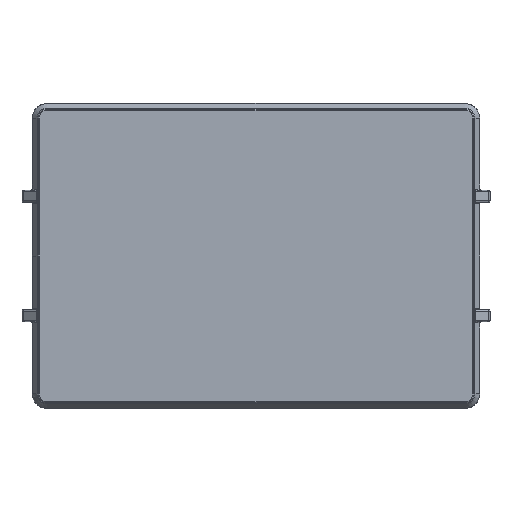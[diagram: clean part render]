
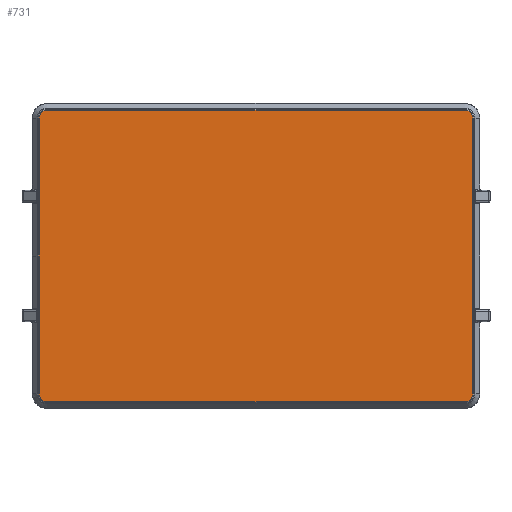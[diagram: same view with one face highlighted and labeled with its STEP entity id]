
A CAD part, front view. The second image highlights one B-rep face of the part: STEP entity #731.
In plain terms, the highlighted planar face has unit normal (0, -1, 0).
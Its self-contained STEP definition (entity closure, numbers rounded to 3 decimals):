
#205 = VECTOR ( 'NONE', #1746, 1000. ) ;
#487 = PLANE ( 'NONE',  #545 ) ;
#545 = AXIS2_PLACEMENT_3D ( 'NONE', #10472, #15625, #4032 ) ;
#584 = VERTEX_POINT ( 'NONE', #10061 ) ;
#697 = EDGE_CURVE ( 'NONE', #2830, #5253, #2931, .T. ) ;
#731 = ADVANCED_FACE ( 'NONE', ( #6919 ), #487, .F. ) ;
#985 = LINE ( 'NONE', #11041, #5100 ) ;
#1746 = DIRECTION ( 'NONE',  ( 0., 0., -1. ) ) ;
#1948 = DIRECTION ( 'NONE',  ( 0., 0., 1. ) ) ;
#2735 = LINE ( 'NONE', #10519, #13420 ) ;
#2830 = VERTEX_POINT ( 'NONE', #15658 ) ;
#2931 = LINE ( 'NONE', #12075, #2961 ) ;
#2961 = VECTOR ( 'NONE', #10714, 1000. ) ;
#3490 = ORIENTED_EDGE ( 'NONE', *, *, #8204, .T. ) ;
#3570 = ORIENTED_EDGE ( 'NONE', *, *, #8040, .T. ) ;
#3737 = VERTEX_POINT ( 'NONE', #7482 ) ;
#4032 = DIRECTION ( 'NONE',  ( 0., 0., 1. ) ) ;
#4061 = DIRECTION ( 'NONE',  ( -1., 0., 0. ) ) ;
#4274 = LINE ( 'NONE', #9460, #205 ) ;
#4584 = DIRECTION ( 'NONE',  ( 1., 0., 0. ) ) ;
#4624 = AXIS2_PLACEMENT_3D ( 'NONE', #15151, #12380, #4584 ) ;
#4814 = EDGE_CURVE ( 'NONE', #14382, #3737, #985, .T. ) ;
#5012 = AXIS2_PLACEMENT_3D ( 'NONE', #14056, #5879, #11598 ) ;
#5100 = VECTOR ( 'NONE', #12656, 1000. ) ;
#5253 = VERTEX_POINT ( 'NONE', #11448 ) ;
#5351 = LINE ( 'NONE', #12022, #8444 ) ;
#5879 = DIRECTION ( 'NONE',  ( 0., -1., 0. ) ) ;
#6364 = CIRCLE ( 'NONE', #5012, 3.334 ) ;
#6465 = DIRECTION ( 'NONE',  ( 0., 0., 1. ) ) ;
#6535 = DIRECTION ( 'NONE',  ( 0., 0., -1. ) ) ;
#6748 = CIRCLE ( 'NONE', #11884, 3.334 ) ;
#6919 = FACE_OUTER_BOUND ( 'NONE', #7227, .T. ) ;
#7227 = EDGE_LOOP ( 'NONE', ( #13745, #15161, #10033, #3490, #14916, #11467, #9841, #15255, #3570 ) ) ;
#7280 = EDGE_CURVE ( 'NONE', #16364, #9458, #6748, .T. ) ;
#7482 = CARTESIAN_POINT ( 'NONE',  ( 88., -9., -61.334 ) ) ;
#7509 = CARTESIAN_POINT ( 'NONE',  ( -88., -9., -61.334 ) ) ;
#8038 = AXIS2_PLACEMENT_3D ( 'NONE', #9422, #12887, #6535 ) ;
#8040 = EDGE_CURVE ( 'NONE', #9458, #2830, #4274, .T. ) ;
#8204 = EDGE_CURVE ( 'NONE', #3737, #584, #11516, .T. ) ;
#8444 = VECTOR ( 'NONE', #4061, 1000. ) ;
#9240 = CIRCLE ( 'NONE', #4624, 3.334 ) ;
#9422 = CARTESIAN_POINT ( 'NONE',  ( 88., -9., -58. ) ) ;
#9458 = VERTEX_POINT ( 'NONE', #10027 ) ;
#9460 = CARTESIAN_POINT ( 'NONE',  ( -91.334, -9., 58. ) ) ;
#9841 = ORIENTED_EDGE ( 'NONE', *, *, #11072, .T. ) ;
#10027 = CARTESIAN_POINT ( 'NONE',  ( -91.334, -9., 58. ) ) ;
#10033 = ORIENTED_EDGE ( 'NONE', *, *, #4814, .T. ) ;
#10061 = CARTESIAN_POINT ( 'NONE',  ( 91.334, -9., -58. ) ) ;
#10472 = CARTESIAN_POINT ( 'NONE',  ( -91.334, -9., 0. ) ) ;
#10519 = CARTESIAN_POINT ( 'NONE',  ( 91.334, -9., -58. ) ) ;
#10666 = CARTESIAN_POINT ( 'NONE',  ( -88., -9., 58. ) ) ;
#10714 = DIRECTION ( 'NONE',  ( 0., 0., -1. ) ) ;
#10931 = VERTEX_POINT ( 'NONE', #13889 ) ;
#11041 = CARTESIAN_POINT ( 'NONE',  ( -88., -9., -61.334 ) ) ;
#11072 = EDGE_CURVE ( 'NONE', #11804, #16364, #5351, .T. ) ;
#11448 = CARTESIAN_POINT ( 'NONE',  ( -91.334, -9., -58. ) ) ;
#11467 = ORIENTED_EDGE ( 'NONE', *, *, #11964, .T. ) ;
#11516 = CIRCLE ( 'NONE', #8038, 3.334 ) ;
#11598 = DIRECTION ( 'NONE',  ( -1., 0., 0. ) ) ;
#11804 = VERTEX_POINT ( 'NONE', #13397 ) ;
#11884 = AXIS2_PLACEMENT_3D ( 'NONE', #10666, #12271, #1948 ) ;
#11964 = EDGE_CURVE ( 'NONE', #10931, #11804, #9240, .T. ) ;
#12022 = CARTESIAN_POINT ( 'NONE',  ( 88., -9., 61.334 ) ) ;
#12075 = CARTESIAN_POINT ( 'NONE',  ( -91.334, -9., 0. ) ) ;
#12271 = DIRECTION ( 'NONE',  ( 0., -1., 0. ) ) ;
#12380 = DIRECTION ( 'NONE',  ( 0., -1., 0. ) ) ;
#12656 = DIRECTION ( 'NONE',  ( 1., 0., 0. ) ) ;
#12887 = DIRECTION ( 'NONE',  ( 0., -1., 0. ) ) ;
#13397 = CARTESIAN_POINT ( 'NONE',  ( 88., -9., 61.334 ) ) ;
#13420 = VECTOR ( 'NONE', #6465, 1000. ) ;
#13745 = ORIENTED_EDGE ( 'NONE', *, *, #697, .T. ) ;
#13889 = CARTESIAN_POINT ( 'NONE',  ( 91.334, -9., 58. ) ) ;
#14056 = CARTESIAN_POINT ( 'NONE',  ( -88., -9., -58. ) ) ;
#14081 = CARTESIAN_POINT ( 'NONE',  ( -88., -9., 61.334 ) ) ;
#14382 = VERTEX_POINT ( 'NONE', #7509 ) ;
#14760 = EDGE_CURVE ( 'NONE', #5253, #14382, #6364, .T. ) ;
#14916 = ORIENTED_EDGE ( 'NONE', *, *, #15919, .T. ) ;
#15151 = CARTESIAN_POINT ( 'NONE',  ( 88., -9., 58. ) ) ;
#15161 = ORIENTED_EDGE ( 'NONE', *, *, #14760, .T. ) ;
#15255 = ORIENTED_EDGE ( 'NONE', *, *, #7280, .T. ) ;
#15625 = DIRECTION ( 'NONE',  ( 0., 1., 0. ) ) ;
#15658 = CARTESIAN_POINT ( 'NONE',  ( -91.334, -9., 0. ) ) ;
#15919 = EDGE_CURVE ( 'NONE', #584, #10931, #2735, .T. ) ;
#16364 = VERTEX_POINT ( 'NONE', #14081 ) ;
